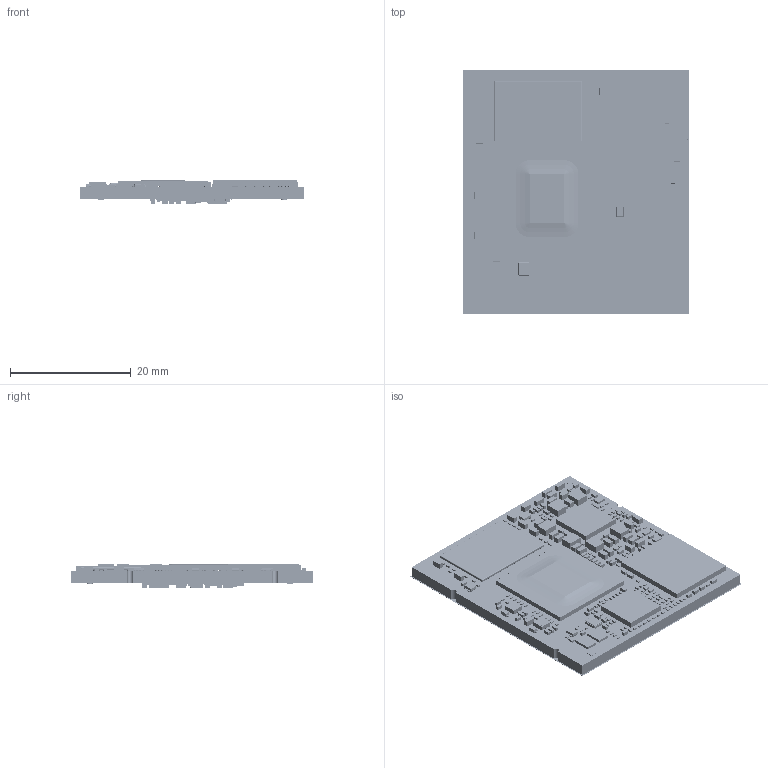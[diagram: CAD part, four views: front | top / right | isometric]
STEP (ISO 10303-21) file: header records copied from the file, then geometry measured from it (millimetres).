
FILE_DESCRIPTION(('STEP AP214'),'1');
FILE_NAME('Board1_BoardAndModels.step','2024-11-27T12:41:32',(' '),(' '),'Spatial InterOp 3D','XD3DPlugin XRACreate',' ');
FILE_SCHEMA(('automotive_design'));
Length unit declared in the file: millimetre
Products named in the file (130): Submodel-N:\GROUP\DEVELOP\HARDWARE\PCL-078_phyCORE-iMX8MPlus__lpar_FPSC_rpar_\Design\1617.2\001\PCB\Layout\3D\Input_S\06035C473JAZ7A_0.xtd; 06035C473JAZ7A_0; Submodel-CAP3343_part_simplified_0603-C3; DesignRootModel; Submodel-N:\GROUP\DEVELOP\HARDWARE\PCL-078_phyCORE-iMX8MPlus__lpar_FPSC_rpar_\Design\1617.2\001\PCB\Layout\3D\Input_S\RC0603F1005CS.xtd; RC0603F1005CS; Submodel-RES5673_part_simplified_0201; Submodel-RES5713_part_simplified_0201; Submodel-N:\GROUP\DEVELOP\HARDWARE\PCL-078_phyCORE-iMX8MPlus__lpar_FPSC_rpar_\Design\1617.2\001\PCB\Layout\3D\Input_S\0201YC101KAZ2A.xtd; 0201YC101KAZ2A; Submodel-CAP3843_part_simplified_0201; Submodel-RES5803_part_simplified_0201; Submodel-N:\GROUP\DEVELOP\HARDWARE\PCL-078_phyCORE-iMX8MPlus__lpar_FPSC_rpar_\Design\1617.2\001\PCB\Layout\3D\Input_S\C0402C270F5GAC_0.xtd; C0402C270F5GAC_0; Submodel-CAP3793_part_simplified_0402-1230x660um; Submodel-N:\GROUP\DEVELOP\HARDWARE\PCL-078_phyCORE-iMX8MPlus__lpar_FPSC_rpar_\Design\1617.2\001\PCB\Layout\3D\Input_S\RCC-0402-1000F.xtd; RCC-0402-1000F; Submodel-RES802_part_simplified_0402-C3; Submodel-N:\GROUP\DEVELOP\HARDWARE\PCL-078_phyCORE-iMX8MPlus__lpar_FPSC_rpar_\Design\1617.2\001\PCB\Layout\3D\Input_S\CRCW020110R7JNEF.xtd; CRCW020110R7JNEF; Submodel-RES5653_part_simplified_0201; Submodel-N:\GROUP\DEVELOP\HARDWARE\PCL-078_phyCORE-iMX8MPlus__lpar_FPSC_rpar_\Design\1617.2\001\PCB\Layout\3D\Input_S\ICGEN3593.xtd; ICGEN3593; Submodel-ICGEN3593_part_simplified_QQ-ULTRA-SMALL-SMT; Submodel-CAP3493_part_simplified_0402-C3; Submodel-N:\GROUP\DEVELOP\HARDWARE\PCL-078_phyCORE-iMX8MPlus__lpar_FPSC_rpar_\Design\1617.2\001\PCB\Layout\3D\Input_S\REMOVE_CONN13663.xtd; REMOVE_CONN13663; Submodel-CONN13663_part_simplified_Testpunkt-0.5mm; Submodel-CAP2013_part_simplified_0402-1200x600um; Submodel-RES6243_part_simplified_0201; Submodel-N:\GROUP\DEVELOP\HARDWARE\PCL-078_phyCORE-iMX8MPlus__lpar_FPSC_rpar_\Design\1617.2\001\PCB\Layout\3D\Input_S\REMOVE_MECH243.xtd; REMOVE_MECH243; Submodel-MECH243_part_simplified_Fiducial-square; Submodel-RES5773_part_simplified_0201; Submodel-N:\GROUP\DEVELOP\HARDWARE\PCL-078_phyCORE-iMX8MPlus__lpar_FPSC_rpar_\Design\1617.2\001\PCB\Layout\3D\Input_S\0402YC822JAZ4A.xtd; 0402YC822JAZ4A; Submodel-CAP722_part_simplified_0402-C3; Submodel-CAP3003_part_simplified_0201; Submodel-CAP3713_part_simplified_0201; Submodel-N:\GROUP\DEVELOP\HARDWARE\PCL-078_phyCORE-iMX8MPlus__lpar_FPSC_rpar_\Design\1617.2\001\PCB\Layout\3D\Input_S\TRANSISTOR932.xtd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
Assembly tree (510 placements, depth 5):
  Board1_BoardAndModels
    DesignRootModel
      Submodel-CAP3343_part_simplified_0603-C3  x40
        Submodel-N:\GROUP\DEVELOP\HARDWARE\PCL-078_phyCORE-iMX8MPlus__lpar_FPSC_rpar_\Design\1617.2\001\PCB\Layout\3D\Input_S\06035C473JAZ7A_0.xtd
          06035C473JAZ7A_0
      Submodel-RES5673_part_simplified_0201  x26
        Submodel-N:\GROUP\DEVELOP\HARDWARE\PCL-078_phyCORE-iMX8MPlus__lpar_FPSC_rpar_\Design\1617.2\001\PCB\Layout\3D\Input_S\RC0603F1005CS.xtd
          RC0603F1005CS
      Submodel-RES5713_part_simplified_0201  x14
        Submodel-N:\GROUP\DEVELOP\HARDWARE\PCL-078_phyCORE-iMX8MPlus__lpar_FPSC_rpar_\Design\1617.2\001\PCB\Layout\3D\Input_S\RC0603F1005CS.xtd
          RC0603F1005CS
      Submodel-CAP3843_part_simplified_0201  x106
        Submodel-N:\GROUP\DEVELOP\HARDWARE\PCL-078_phyCORE-iMX8MPlus__lpar_FPSC_rpar_\Design\1617.2\001\PCB\Layout\3D\Input_S\0201YC101KAZ2A.xtd
          0201YC101KAZ2A
      Submodel-RES5803_part_simplified_0201  x19
        Submodel-N:\GROUP\DEVELOP\HARDWARE\PCL-078_phyCORE-iMX8MPlus__lpar_FPSC_rpar_\Design\1617.2\001\PCB\Layout\3D\Input_S\RC0603F1005CS.xtd
          RC0603F1005CS
      Submodel-CAP3793_part_simplified_0402-1230x660um  x10
        Submodel-N:\GROUP\DEVELOP\HARDWARE\PCL-078_phyCORE-iMX8MPlus__lpar_FPSC_rpar_\Design\1617.2\001\PCB\Layout\3D\Input_S\C0402C270F5GAC_0.xtd
          C0402C270F5GAC_0
      Submodel-RES802_part_simplified_0402-C3  x7
        Submodel-N:\GROUP\DEVELOP\HARDWARE\PCL-078_phyCORE-iMX8MPlus__lpar_FPSC_rpar_\Design\1617.2\001\PCB\Layout\3D\Input_S\RCC-0402-1000F.xtd
          RCC-0402-1000F
      Submodel-RES5653_part_simplified_0201  x14
        Submodel-N:\GROUP\DEVELOP\HARDWARE\PCL-078_phyCORE-iMX8MPlus__lpar_FPSC_rpar_\Design\1617.2\001\PCB\Layout\3D\Input_S\CRCW020110R7JNEF.xtd
          CRCW020110R7JNEF
      Submodel-ICGEN3593_part_simplified_QQ-ULTRA-SMALL-SMT
        Submodel-N:\GROUP\DEVELOP\HARDWARE\PCL-078_phyCORE-iMX8MPlus__lpar_FPSC_rpar_\Design\1617.2\001\PCB\Layout\3D\Input_S\ICGEN3593.xtd
          ICGEN3593
      Submodel-CAP3493_part_simplified_0402-C3  x5
        Submodel-N:\GROUP\DEVELOP\HARDWARE\PCL-078_phyCORE-iMX8MPlus__lpar_FPSC_rpar_\Design\1617.2\001\PCB\Layout\3D\Input_S\C0402C270F5GAC_0.xtd
          C0402C270F5GAC_0
      Submodel-CONN13663_part_simplified_Testpunkt-0.5mm  x5
        Submodel-N:\GROUP\DEVELOP\HARDWARE\PCL-078_phyCORE-iMX8MPlus__lpar_FPSC_rpar_\Design\1617.2\001\PCB\Layout\3D\Input_S\REMOVE_CONN13663.xtd
          REMOVE_CONN13663
      Submodel-CAP2013_part_simplified_0402-1200x600um  x7
        Submodel-N:\GROUP\DEVELOP\HARDWARE\PCL-078_phyCORE-iMX8MPlus__lpar_FPSC_rpar_\Design\1617.2\001\PCB\Layout\3D\Input_S\C0402C270F5GAC_0.xtd
          C0402C270F5GAC_0
      Submodel-RES6243_part_simplified_0201  x5
        Submodel-N:\GROUP\DEVELOP\HARDWARE\PCL-078_phyCORE-iMX8MPlus__lpar_FPSC_rpar_\Design\1617.2\001\PCB\Layout\3D\Input_S\CRCW020110R7JNEF.xtd
          CRCW020110R7JNEF
      Submodel-MECH243_part_simplified_Fiducial-square  x2
        Submodel-N:\GROUP\DEVELOP\HARDWARE\PCL-078_phyCORE-iMX8MPlus__lpar_FPSC_rpar_\Design\1617.2\001\PCB\Layout\3D\Input_S\REMOVE_MECH243.xtd
          REMOVE_MECH243
      Submodel-RES5773_part_simplified_0201  x6
        Submodel-N:\GROUP\DEVELOP\HARDWARE\PCL-078_phyCORE-iMX8MPlus__lpar_FPSC_rpar_\Design\1617.2\001\PCB\Layout\3D\Input_S\RC0603F1005CS.xtd
          RC0603F1005CS
      Submodel-CAP722_part_simplified_0402-C3  x29
        Submodel-N:\GROUP\DEVELOP\HARDWARE\PCL-078_phyCORE-iMX8MPlus__lpar_FPSC_rpar_\Design\1617.2\001\PCB\Layout\3D\Input_S\0402YC822JAZ4A.xtd
          0402YC822JAZ4A
      Submodel-CAP3003_part_simplified_0201  x4
        Submodel-N:\GROUP\DEVELOP\HARDWARE\PCL-078_phyCORE-iMX8MPlus__lpar_FPSC_rpar_\Design\1617.2\001\PCB\Layout\3D\Input_S\0201YC101KAZ2A.xtd
          0201YC101KAZ2A
      Submodel-CAP3713_part_simplified_0201  x18
        Submodel-N:\GROUP\DEVELOP\HARDWARE\PCL-078_phyCORE-iMX8MPlus__lpar_FPSC_rpar_\Design\1617.2\001\PCB\Layout\3D\Input_S\0201YC101KAZ2A.xtd
          0201YC101KAZ2A
      Submodel-TRANSISTOR932_part_simplified_DFN-0806-3  x8
        Submodel-N:\GROUP\DEVELOP\HARDWARE\PCL-078_phyCORE-iMX8MPlus__lpar_FPSC_rpar_\Design\1617.2\001\PCB\Layout\3D\Input_S\TRANSISTOR932.xtd
          TRANSISTOR932
      Submodel-IND1673_part_simplified_L-TFM252012  x6
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Bounding box: 37.4 x 40.4 x 4.09 mm (x, y, z)
Volume: 3542.4 mm3; surface area: 9166.6 mm2
Topology: 1463 solids, 1463 shells, 7367 faces, 17689 edges, 11436 vertices
Faces by surface type: plane 5123, sphere 1854, cylinder 362, torus 24, bspline 4
Full cylindrical faces by diameter (mm): 0.25 x2
Entity records: 159003 total; most frequent: DIRECTION 21495, CARTESIAN_POINT 18001, ORIENTED_EDGE 15150, AXIS2_PLACEMENT_3D 8965, EDGE_CURVE 7575, PRESENTATION_STYLE_ASSIGNMENT 6282, COLOUR_RGB 6282, STYLED_ITEM 6274
